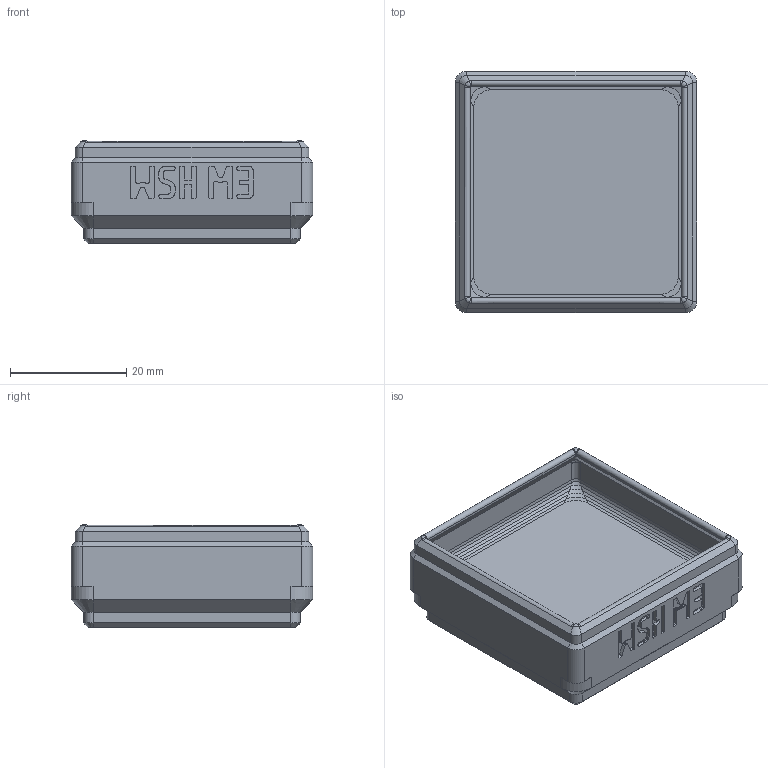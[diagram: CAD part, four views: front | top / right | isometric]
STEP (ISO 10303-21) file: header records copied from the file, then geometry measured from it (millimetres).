
FILE_DESCRIPTION(('Open CASCADE Model'),'2;1');
FILE_NAME('Open CASCADE Shape Model','2026-11-03T14:04:39',('Author'),( 'Open CASCADE'),'Open CASCADE STEP processor 8.0','build123d', 'Unknown');
FILE_SCHEMA(('AUTOMOTIVE_DESIGN { 1 0 10303 214 1 1 1 1 }'));
Products named in the file (1): SOLID
Bounding box: 41.5 x 41.5 x 17.7 mm (x, y, z)
Volume: 11837.4 mm3; surface area: 10755.6 mm2
Topology: 1 solids, 2 shells, 779 faces, 2171 edges, 1402 vertices
Faces by surface type: plane 643, bspline 92, cylinder 32, cone 12
Entity records: 56332 total; most frequent: CARTESIAN_POINT 13767, DIRECTION 7493, LINE 5917, VECTOR 5917, ORIENTED_EDGE 4342, PCURVE 4342, DEFINITIONAL_REPRESENTATION 4342, EDGE_CURVE 2171
